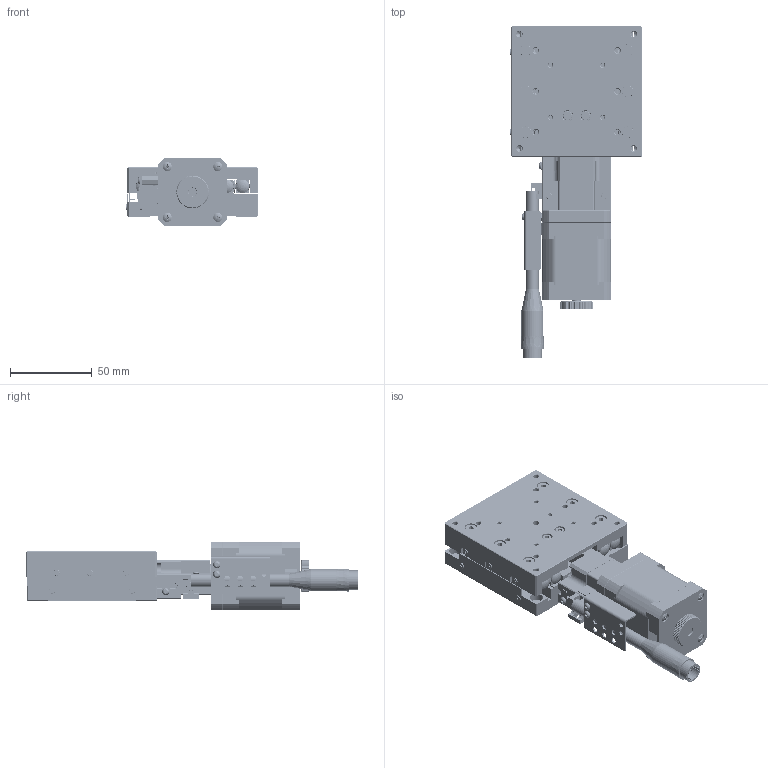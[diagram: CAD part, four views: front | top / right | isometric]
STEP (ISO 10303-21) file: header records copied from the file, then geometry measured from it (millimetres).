
FILE_DESCRIPTION (( 'STEP AP214' ), '1' );
FILE_NAME ('TXA8030B-L2-M42L.STEP', '2025-01-03T10:50:57', ( '' ), ( '' ), 'SwSTEP 2.0', 'SolidWorks 2020', '' );
FILE_SCHEMA (( 'AUTOMOTIVE_DESIGN' ));
Length unit declared in the file: millimetre
Products named in the file (1): TXA8030B-L2-M42L
Bounding box: 80.71 x 203.19 x 42.13 mm (x, y, z)
Volume: 239363.3 mm3; surface area: 119106 mm2
Topology: 78 solids, 78 shells, 4566 faces, 11144 edges, 6846 vertices
Faces by surface type: plane 1735, cone 1696, cylinder 825, bspline 154, torus 148, sphere 8
Entity records: 196092 total; most frequent: CARTESIAN_POINT 36481, DIRECTION 23259, ORIENTED_EDGE 22180, EDGE_CURVE 11090, AXIS2_PLACEMENT_3D 8542, VERTEX_POINT 6846, VECTOR 6175, LINE 6175
